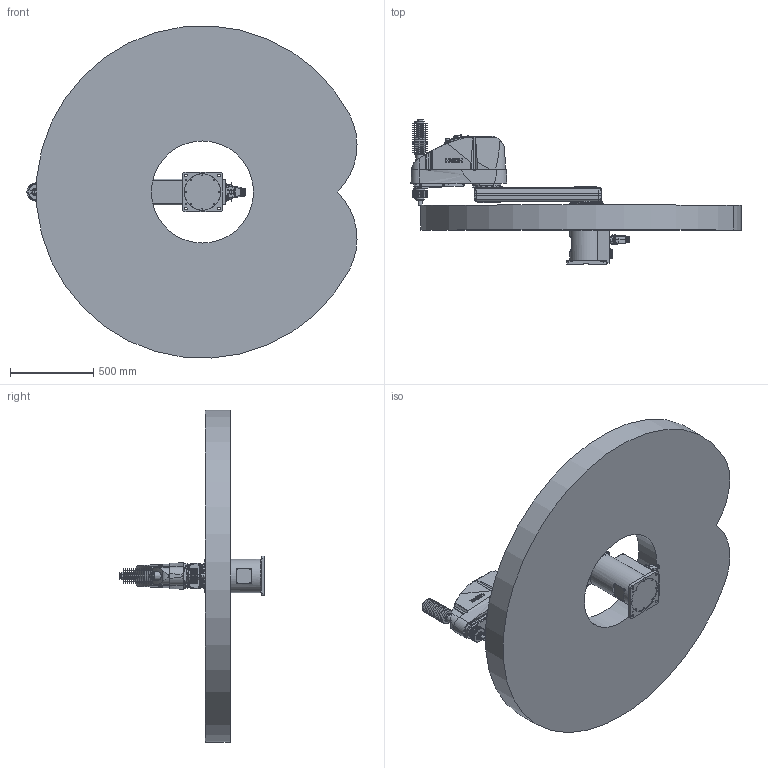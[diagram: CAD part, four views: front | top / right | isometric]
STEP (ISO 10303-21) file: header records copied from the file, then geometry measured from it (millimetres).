
FILE_DESCRIPTION( ( 'STEP AP214' ), '1' );
FILE_NAME( 'C:/Users/9607552/Desktop/GX20-BA01C_straight.stp', '2023-08-01T09:41:56', ( '' ), ( '' ), ' ', 'PARTsolutions', ' ' );
FILE_SCHEMA( ( 'AUTOMOTIVE_DESIGN { 1 0 10303 214 1 1 1 1 }' ) );
Length unit declared in the file: millimetre
Products named in the file (7): GX20-BA01CS-W; _Base c; _Straight-B; _J1 Arm GX10-600; _J2 Arm GX10-c; _J3 Arm GX10-c (1); _GX10_20B-25_1
Assembly tree (6 placements, depth 2):
  GX20-BA01CS-W
    _Base c
    _Straight-B
    _J1 Arm GX10-600
    _J2 Arm GX10-c
    _J3 Arm GX10-c (1)
    _GX10_20B-25_1
Bounding box: 1985.18 x 870.5 x 1997.01 mm (x, y, z)
Volume: 461802624.6 mm3; surface area: 8595306.4 mm2
Topology: 6 solids, 6 shells, 2475 faces, 6091 edges, 3953 vertices
Faces by surface type: plane 1285, cylinder 734, cone 348, torus 70, bspline 37, sphere 1
Full cylindrical faces by diameter (mm): 1.18 x55, 2.5 x2, 3 x32, 3.242 x10, 3.3 x9, 4 x2, 4.2 x2, 4.8 x4, 5.1 x4, 5.34 x4, 5.5 x12, 6 x3, 6.2 x2, 6.647 x2, 7 x27, 7.5 x1, 8 x4, 8.5 x2, 9 x4, 10 x32, 10.5 x4, 11 x14, 12 x7, 12.25 x1, 13 x2, 14 x8, 14.25 x1, 16 x7, 18 x1, 20.4 x1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
Entity records: 93624 total; most frequent: CARTESIAN_POINT 17735, DIRECTION 11614, ORIENTED_EDGE 10720, EDGE_CURVE 5360, AXIS2_PLACEMENT_3D 4433, VERTEX_POINT 3848, EDGE_LOOP 3457, FACE_OUTER_BOUND 2826
